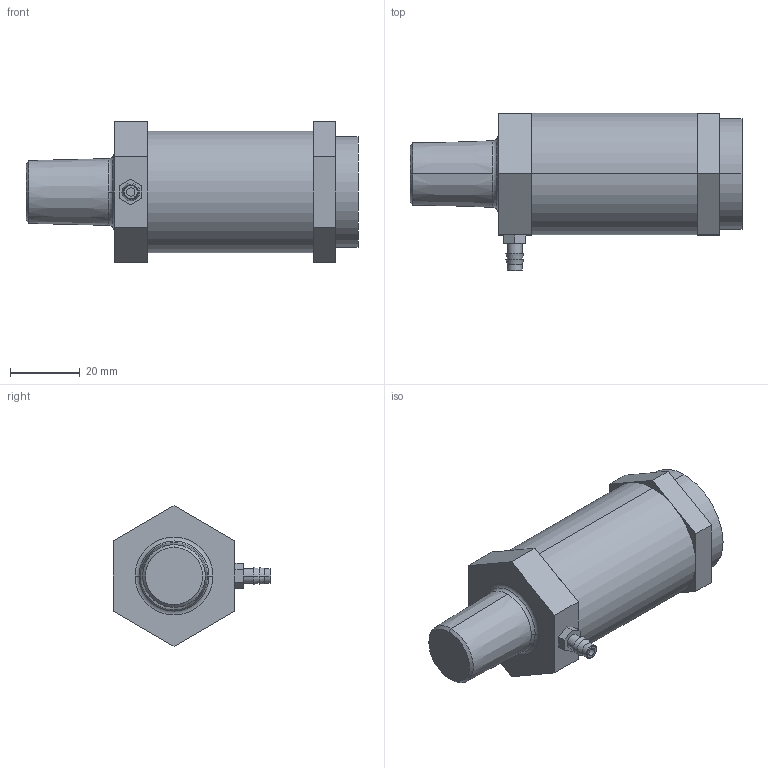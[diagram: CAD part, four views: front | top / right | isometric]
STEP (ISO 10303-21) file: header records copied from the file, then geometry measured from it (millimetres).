
FILE_DESCRIPTION((''),'2;1');
FILE_NAME('UD3_ASM','2017-08-24T',('jennifer.elliott'),('CenterLine (Windsor) Ltd - Automation Components Division'),'PRO/ENGINEER BY PARAMETRIC TECHNOLOGY CORPORATION, 2015030','PRO/ENGINEER BY PARAMETRIC TECHNOLOGY CORPORATION, 2015030','');
FILE_SCHEMA(('AUTOMOTIVE_DESIGN { 1 0 10303 214 1 1 1 1 }'));
Length unit declared in the file: inch
Products named in the file (6): PRT0087; PRT0088; PRT0089; PRT0090; PRT0091; UD3_ASM
Assembly tree (5 placements, depth 2):
  UD3_ASM
    PRT0087
    PRT0088
    PRT0089
    PRT0090
    PRT0091
Bounding box: 95.12 x 45.24 x 40.33 mm (x, y, z)
Volume: 74441.7 mm3; surface area: 17191 mm2
Topology: 5 solids, 5 shells, 58 faces, 123 edges, 79 vertices
Faces by surface type: plane 32, cylinder 10, torus 8, cone 8
Entity records: 1948 total; most frequent: DIRECTION 312, CARTESIAN_POINT 287, ORIENTED_EDGE 246, EDGE_CURVE 123, AXIS2_PLACEMENT_3D 120, VERTEX_POINT 79, VECTOR 72, LINE 72
